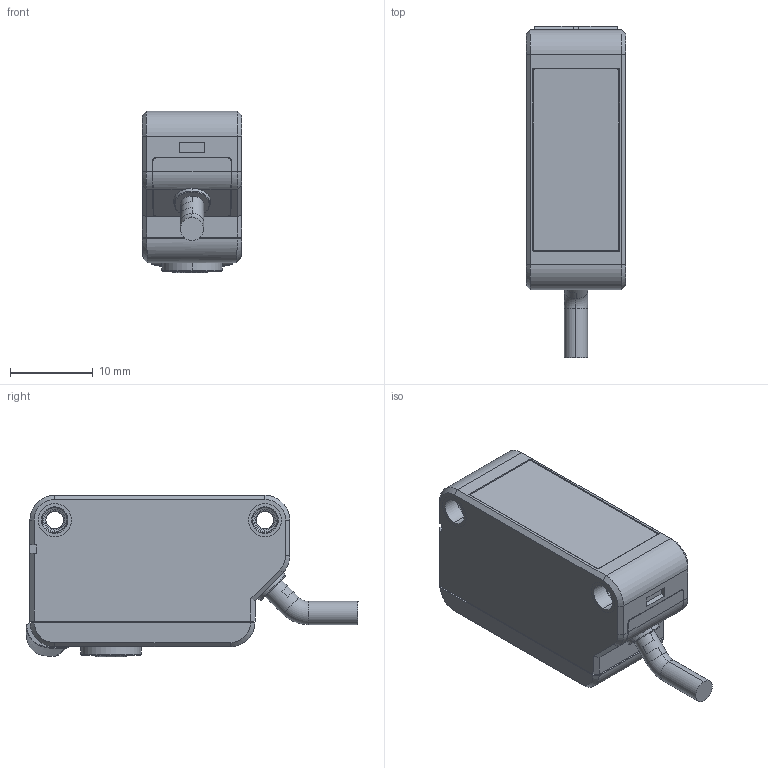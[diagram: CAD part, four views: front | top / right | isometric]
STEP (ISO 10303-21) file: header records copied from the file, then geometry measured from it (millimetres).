
FILE_DESCRIPTION((''),'2;1');
FILE_NAME('0-MANFANSHE_ASM','2023-02-27T11:28:18',('HP'),(''),'CREO PARAMETRIC BY PTC INC, 2019224','CREO PARAMETRIC BY PTC INC, 2019224','');
FILE_SCHEMA(('CONFIG_CONTROL_DESIGN','SHAPE_APPEARANCE_LAYERS_GROUPS'));
Length unit declared in the file: millimetre
Products named in the file (8): 50-0140131-TP; 0003; 50-0140101-BP; 0004; M3X12; 50-0100017-WIRE; 0001; 0-MANFANSHE_ASM
Assembly tree (8 placements, depth 2):
  0-MANFANSHE_ASM
    50-0140131-TP
    0003
    50-0140101-BP
    0004
    M3X12  x2
    50-0100017-WIRE
    0001
Bounding box: 12 x 40.11 x 19.5 mm (x, y, z)
Volume: 6382.6 mm3; surface area: 4863.4 mm2
Topology: 8 solids, 8 shells, 653 faces, 1752 edges, 1145 vertices
Faces by surface type: plane 386, cylinder 161, bspline 48, cone 22, torus 14, extrusion 12, sphere 10
Entity records: 25725 total; most frequent: CARTESIAN_POINT 8418, ORIENTED_EDGE 2766, DIRECTION 2385, PRESENTATION_STYLE_ASSIGNMENT 1410, STYLED_ITEM 1391, CURVE_STYLE 1384, EDGE_CURVE 1383, VECTOR 965
